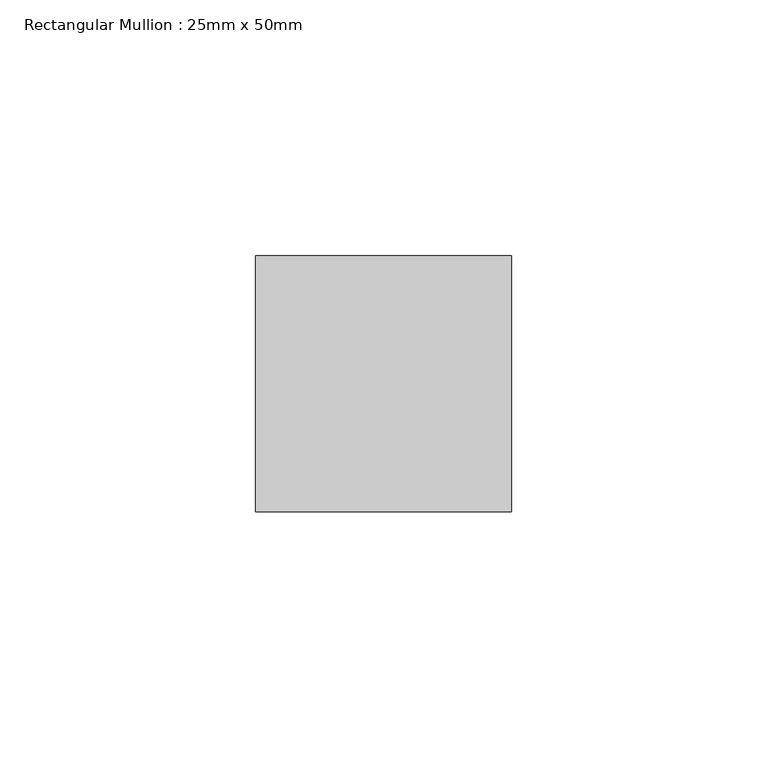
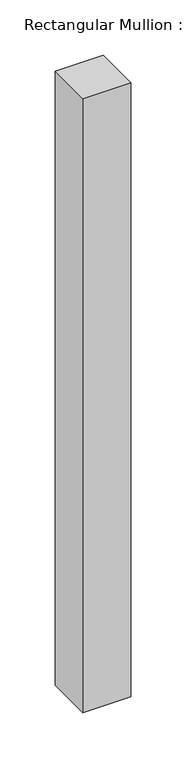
"""IFC4 building model written with IfcOpenShell, lengths in millimetres: member geometry, Rectangular Mullion : 25mm x 50mm."""

from ifc_helpers import new_model, si_unit, frame, origin, place, context, project, spatial, polyline, outline, extrude, source, transform, mapped, element, save


def rectangular_mullion_25mm_x_50mm_be5d0d00(model_context):
    return source(origin(), model_context, "Body", "SweptSolid", [
        extrude(outline(polyline([(25.0, 25.0), (25.0, -25.0), (-25.0, -25.0), (-25.0, 25.0), (25.0, 25.0)])), frame((0.0, 0.0, -678.8735721), z_axis=(0.0, 0.0, 1.0), x_axis=(1.0, 0.0, 0.0)), (0.0, 0.0, 1.0), 678.8735721),
    ])


if __name__ == "__main__":
    model = new_model("IFC4")
    model_context = context("Model", 3, world=origin())
    ifc_project = project(units=[si_unit("LENGTHUNIT", "METRE", prefix="MILLI")], contexts=[model_context])
    site = spatial("IfcSite", under=ifc_project)
    building = spatial("IfcBuilding", under=site)
    placement = place(None, origin())
    rectangular_mullion_25mm_x_50mm_shape = rectangular_mullion_25mm_x_50mm_be5d0d00(model_context)
    element("IfcMember", 1, ObjectType="Rectangular Mullion : 25mm x 50mm", at=placement, inside=building, context=model_context, shape_type="MappedRepresentation", body=[
        mapped(rectangular_mullion_25mm_x_50mm_shape, transform((0.0, 0.0, 0.0), x_axis=(1.0, 0.0, 0.0), y_axis=(0.0, 1.0, 0.0), z_axis=(0.0, 0.0, 1.0))),
    ])
    save(model, "model.ifc")
